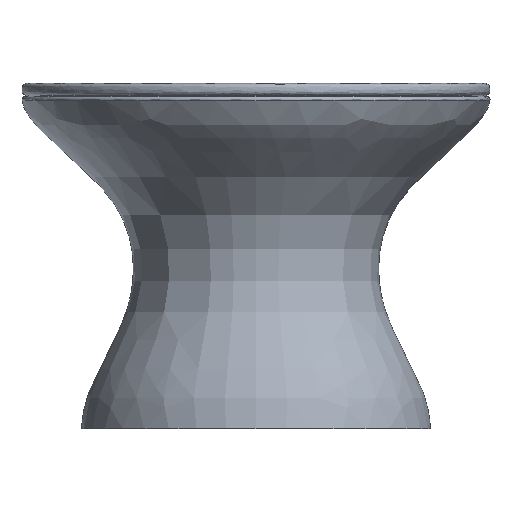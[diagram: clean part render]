
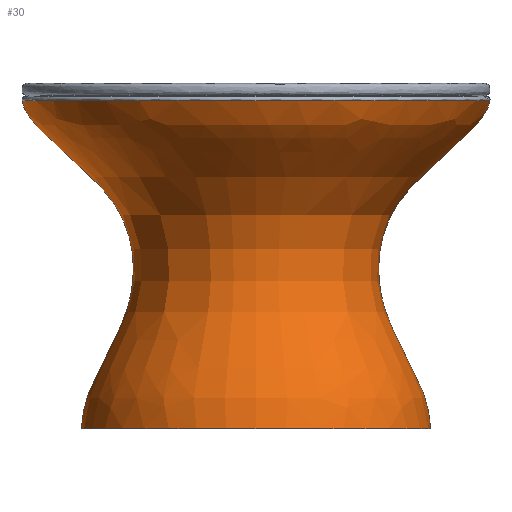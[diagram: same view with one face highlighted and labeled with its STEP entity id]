
A CAD part, front view. The second image highlights one B-rep face of the part: STEP entity #30.
In plain terms, the highlighted free-form (B-spline) face has degree [3, 2] with [8, 5] control points.
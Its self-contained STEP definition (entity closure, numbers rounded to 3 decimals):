
#30=ADVANCED_FACE('',(#47),#234,.T.);
#47=FACE_OUTER_BOUND('',#65,.T.);
#65=EDGE_LOOP('',(#99,#100,#101,#102));
#99=ORIENTED_EDGE('',*,*,#145,.T.);
#100=ORIENTED_EDGE('',*,*,#137,.F.);
#101=ORIENTED_EDGE('',*,*,#136,.F.);
#102=ORIENTED_EDGE('',*,*,#135,.T.);
#135=EDGE_CURVE('',#211,#215,#169,.T.);
#136=EDGE_CURVE('',#211,#209,#165,.T.);
#137=EDGE_CURVE('',#209,#216,#170,.T.);
#145=EDGE_CURVE('',#215,#216,#167,.T.);
#165=B_SPLINE_CURVE_WITH_KNOTS('',3,(#1172,#1173,#1174,#1175,#1176,#1177,
#1178,#1179),.UNSPECIFIED.,.F.,.F.,(4,1,1,1,1,4),(0.357,6.348,
12.696,19.044,25.393,31.741),
 .UNSPECIFIED.);
#167=B_SPLINE_CURVE_WITH_KNOTS('',3,(#1255,#1256,#1257,#1258,#1259,#1260,
#1261,#1262),.UNSPECIFIED.,.F.,.F.,(4,1,1,1,1,4),(0.357,6.348,
12.696,19.044,25.393,31.741),
 .UNSPECIFIED.);
#169=TRIMMED_CURVE($,#189,(#1170),(#1171),.T.,.CARTESIAN.);
#170=TRIMMED_CURVE($,#190,(#1181),(#1182),.T.,.CARTESIAN.);
#189=CIRCLE('',#335,194.06);
#190=CIRCLE('',#336,144.645);
#209=VERTEX_POINT('',#1157);
#211=VERTEX_POINT('',#1159);
#215=VERTEX_POINT('',#1163);
#216=VERTEX_POINT('',#1164);
#234=(
BOUNDED_SURFACE()
B_SPLINE_SURFACE(3,2,((#782,#783,#784,#785,#786),(#787,#788,#789,#790,#791),
(#792,#793,#794,#795,#796),(#797,#798,#799,#800,#801),(#802,#803,#804,#805,
#806),(#807,#808,#809,#810,#811),(#812,#813,#814,#815,#816),(#817,#818,
#819,#820,#821)),.UNSPECIFIED.,.F.,.F.,.F.)
B_SPLINE_SURFACE_WITH_KNOTS((4,1,1,1,1,4),(3,2,3),(0.,6.348,
12.696,19.044,25.393,31.741),(61.055,
91.582,122.109),.UNSPECIFIED.)
GEOMETRIC_REPRESENTATION_ITEM()
RATIONAL_B_SPLINE_SURFACE(((1.,0.707,1.,0.707,1.),
(1.,0.707,1.,0.707,1.),(1.,0.707,1.,
0.707,1.),(1.,0.707,1.,0.707,1.),(1.,
0.707,1.,0.707,1.),(1.,0.707,1.,0.707,
1.),(1.,0.707,1.,0.707,1.),(1.,0.707,
1.,0.707,1.)))
REPRESENTATION_ITEM('')
SURFACE()
);
#335=AXIS2_PLACEMENT_3D($,#1169,#361,#362);
#336=AXIS2_PLACEMENT_3D($,#1180,#363,#364);
#361=DIRECTION('',(0.,0.,-1.));
#362=DIRECTION('',(1.,0.,0.));
#363=DIRECTION('',(0.,0.,-1.));
#364=DIRECTION('',(1.,0.,0.));
#782=CARTESIAN_POINT('',(778.816,130.176,275.566));
#783=CARTESIAN_POINT('',(778.816,-64.102,275.566));
#784=CARTESIAN_POINT('',(973.094,-64.102,275.566));
#785=CARTESIAN_POINT('',(1167.372,-64.102,275.566));
#786=CARTESIAN_POINT('',(1167.372,130.176,275.566));
#787=CARTESIAN_POINT('',(778.065,130.176,255.263));
#788=CARTESIAN_POINT('',(778.065,-64.853,255.263));
#789=CARTESIAN_POINT('',(973.094,-64.853,255.263));
#790=CARTESIAN_POINT('',(1168.123,-64.853,255.263));
#791=CARTESIAN_POINT('',(1168.123,130.176,255.263));
#792=CARTESIAN_POINT('',(851.14,130.176,205.657));
#793=CARTESIAN_POINT('',(851.14,8.222,205.657));
#794=CARTESIAN_POINT('',(973.094,8.222,205.657));
#795=CARTESIAN_POINT('',(1095.048,8.222,205.657));
#796=CARTESIAN_POINT('',(1095.048,130.176,205.657));
#797=CARTESIAN_POINT('',(874.856,130.176,148.716));
#798=CARTESIAN_POINT('',(874.856,31.938,148.716));
#799=CARTESIAN_POINT('',(973.094,31.938,148.716));
#800=CARTESIAN_POINT('',(1071.332,31.938,148.716));
#801=CARTESIAN_POINT('',(1071.332,130.176,148.716));
#802=CARTESIAN_POINT('',(869.027,130.176,95.632));
#803=CARTESIAN_POINT('',(869.027,26.109,95.632));
#804=CARTESIAN_POINT('',(973.094,26.109,95.632));
#805=CARTESIAN_POINT('',(1077.161,26.109,95.632));
#806=CARTESIAN_POINT('',(1077.161,130.176,95.632));
#807=CARTESIAN_POINT('',(841.563,130.176,50.44));
#808=CARTESIAN_POINT('',(841.563,-1.355,50.44));
#809=CARTESIAN_POINT('',(973.094,-1.355,50.44));
#810=CARTESIAN_POINT('',(1104.625,-1.355,50.44));
#811=CARTESIAN_POINT('',(1104.625,130.176,50.44));
#812=CARTESIAN_POINT('',(828.71,130.176,17.697));
#813=CARTESIAN_POINT('',(828.71,-14.208,17.697));
#814=CARTESIAN_POINT('',(973.094,-14.208,17.697));
#815=CARTESIAN_POINT('',(1117.478,-14.208,17.697));
#816=CARTESIAN_POINT('',(1117.478,130.176,17.697));
#817=CARTESIAN_POINT('',(828.449,130.176,0.));
#818=CARTESIAN_POINT('',(828.449,-14.469,0.));
#819=CARTESIAN_POINT('',(973.094,-14.469,0.));
#820=CARTESIAN_POINT('',(1117.739,-14.469,0.));
#821=CARTESIAN_POINT('',(1117.739,130.176,0.));
#1157=CARTESIAN_POINT('',(1117.739,130.176,0.));
#1159=CARTESIAN_POINT('',(1167.154,130.176,272.098));
#1163=CARTESIAN_POINT('',(779.034,130.176,272.098));
#1164=CARTESIAN_POINT('',(828.449,130.176,0.));
#1169=CARTESIAN_POINT('',(973.094,130.176,272.098));
#1170=CARTESIAN_POINT('',(1167.154,130.176,272.098));
#1171=CARTESIAN_POINT('',(779.034,130.176,272.098));
#1172=CARTESIAN_POINT('',(1167.154,130.176,272.098));
#1173=CARTESIAN_POINT('',(1164.057,130.176,252.482));
#1174=CARTESIAN_POINT('',(1094.603,130.176,204.589));
#1175=CARTESIAN_POINT('',(1071.332,130.176,148.716));
#1176=CARTESIAN_POINT('',(1077.161,130.176,95.632));
#1177=CARTESIAN_POINT('',(1104.625,130.176,50.44));
#1178=CARTESIAN_POINT('',(1117.478,130.176,17.697));
#1179=CARTESIAN_POINT('',(1117.739,130.176,0.));
#1180=CARTESIAN_POINT('',(973.094,130.176,0.));
#1181=CARTESIAN_POINT('',(1117.739,130.176,0.));
#1182=CARTESIAN_POINT('',(828.449,130.176,0.));
#1255=CARTESIAN_POINT('',(779.034,130.176,272.098));
#1256=CARTESIAN_POINT('',(782.131,130.176,252.482));
#1257=CARTESIAN_POINT('',(851.585,130.176,204.589));
#1258=CARTESIAN_POINT('',(874.856,130.176,148.716));
#1259=CARTESIAN_POINT('',(869.027,130.176,95.632));
#1260=CARTESIAN_POINT('',(841.563,130.176,50.44));
#1261=CARTESIAN_POINT('',(828.71,130.176,17.697));
#1262=CARTESIAN_POINT('',(828.449,130.176,0.));
